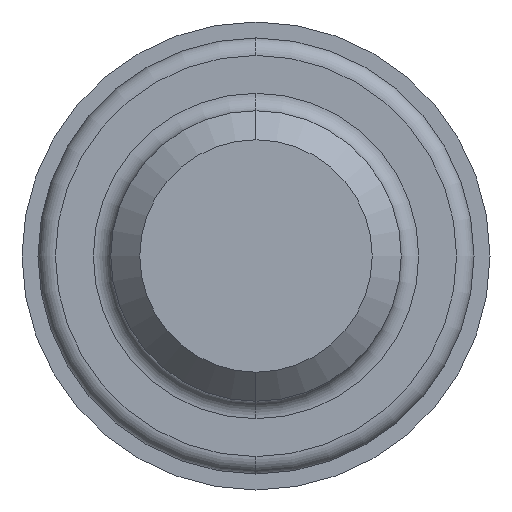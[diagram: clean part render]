
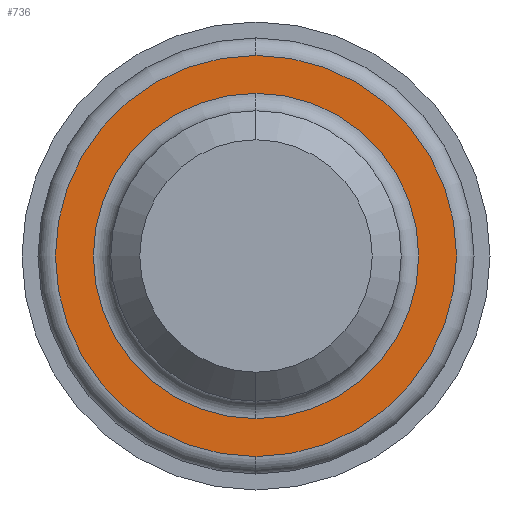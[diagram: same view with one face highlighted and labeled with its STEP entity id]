
A CAD part, left-side view. The second image highlights one B-rep face of the part: STEP entity #736.
In plain terms, the highlighted planar face has unit normal (-1, 0, 0).
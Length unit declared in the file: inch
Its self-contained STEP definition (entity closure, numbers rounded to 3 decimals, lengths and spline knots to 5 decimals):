
#12 = ORIENTED_EDGE ( 'NONE', *, *, #271, .T. ) ;
#25 = ORIENTED_EDGE ( 'NONE', *, *, #76, .T. ) ;
#27 = DIRECTION ( 'NONE',  ( 0., 0., 1. ) ) ;
#41 = CIRCLE ( 'NONE', #482, 0.27985 ) ;
#48 = DIRECTION ( 'NONE',  ( 0., 0., 1. ) ) ;
#67 = EDGE_LOOP ( 'NONE', ( #818, #89 ) ) ;
#76 = EDGE_CURVE ( 'NONE', #450, #789, #743, .T. ) ;
#89 = ORIENTED_EDGE ( 'NONE', *, *, #817, .F. ) ;
#164 = AXIS2_PLACEMENT_3D ( 'NONE', #263, #407, #468 ) ;
#182 = DIRECTION ( 'NONE',  ( 0., 0., 1. ) ) ;
#188 = CIRCLE ( 'NONE', #356, 0.345 ) ;
#202 = AXIS2_PLACEMENT_3D ( 'NONE', #453, #268, #27 ) ;
#214 = FACE_OUTER_BOUND ( 'NONE', #639, .T. ) ;
#263 = CARTESIAN_POINT ( 'NONE',  ( 1.75, 0., 0. ) ) ;
#268 = DIRECTION ( 'NONE',  ( -1., 0., 0. ) ) ;
#271 = EDGE_CURVE ( 'NONE', #789, #450, #188, .T. ) ;
#278 = PLANE ( 'NONE',  #370 ) ;
#292 = VERTEX_POINT ( 'NONE', #571 ) ;
#356 = AXIS2_PLACEMENT_3D ( 'NONE', #476, #720, #182 ) ;
#370 = AXIS2_PLACEMENT_3D ( 'NONE', #538, #787, #474 ) ;
#398 = CARTESIAN_POINT ( 'NONE',  ( 1.75, 0., 0.345 ) ) ;
#402 = CIRCLE ( 'NONE', #164, 0.27985 ) ;
#407 = DIRECTION ( 'NONE',  ( -1., 0., 0. ) ) ;
#421 = DIRECTION ( 'NONE',  ( -1., 0., 0. ) ) ;
#450 = VERTEX_POINT ( 'NONE', #398 ) ;
#453 = CARTESIAN_POINT ( 'NONE',  ( 1.75, 0., 0. ) ) ;
#468 = DIRECTION ( 'NONE',  ( 0., 0., 1. ) ) ;
#474 = DIRECTION ( 'NONE',  ( 0., 0., -1. ) ) ;
#476 = CARTESIAN_POINT ( 'NONE',  ( 1.75, 0., 0. ) ) ;
#480 = CARTESIAN_POINT ( 'NONE',  ( 1.75, 0., -0.345 ) ) ;
#482 = AXIS2_PLACEMENT_3D ( 'NONE', #553, #421, #48 ) ;
#525 = CARTESIAN_POINT ( 'NONE',  ( 1.75, 0., 0.27985 ) ) ;
#538 = CARTESIAN_POINT ( 'NONE',  ( 1.75, 0.345, 0. ) ) ;
#553 = CARTESIAN_POINT ( 'NONE',  ( 1.75, 0., 0. ) ) ;
#571 = CARTESIAN_POINT ( 'NONE',  ( 1.75, 0., -0.27985 ) ) ;
#582 = FACE_BOUND ( 'NONE', #67, .T. ) ;
#639 = EDGE_LOOP ( 'NONE', ( #25, #12 ) ) ;
#663 = EDGE_CURVE ( 'NONE', #701, #292, #402, .T. ) ;
#701 = VERTEX_POINT ( 'NONE', #525 ) ;
#720 = DIRECTION ( 'NONE',  ( -1., 0., 0. ) ) ;
#736 = ADVANCED_FACE ( 'NONE', ( #582, #214 ), #278, .F. ) ;
#743 = CIRCLE ( 'NONE', #202, 0.345 ) ;
#787 = DIRECTION ( 'NONE',  ( 1., 0., 0. ) ) ;
#789 = VERTEX_POINT ( 'NONE', #480 ) ;
#817 = EDGE_CURVE ( 'NONE', #292, #701, #41, .T. ) ;
#818 = ORIENTED_EDGE ( 'NONE', *, *, #663, .F. ) ;
